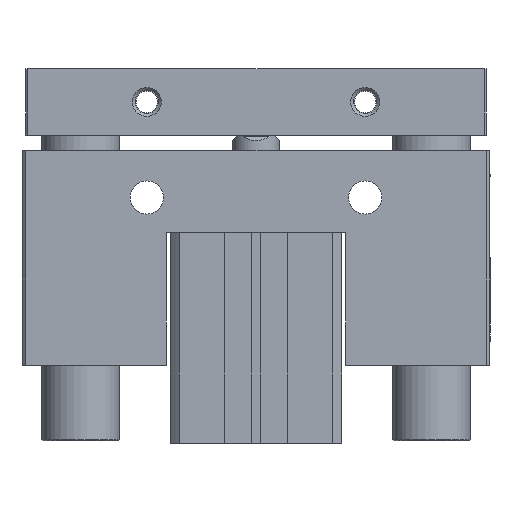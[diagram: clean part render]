
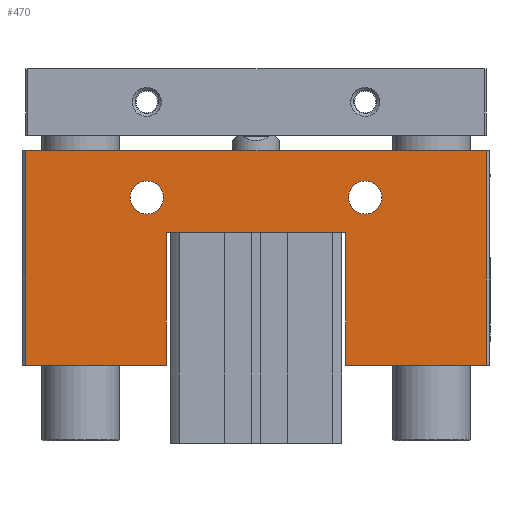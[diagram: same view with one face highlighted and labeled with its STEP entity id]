
A CAD part, front view. The second image highlights one B-rep face of the part: STEP entity #470.
In plain terms, the highlighted planar face has unit normal (0, -1, 0).
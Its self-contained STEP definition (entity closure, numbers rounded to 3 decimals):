
#199=CARTESIAN_POINT('',(-62.726,-23.62,75.));
#200=VERTEX_POINT('',#199);
#207=CARTESIAN_POINT('',(55.274,-23.62,75.));
#208=VERTEX_POINT('',#207);
#209=CARTESIAN_POINT('',(-62.726,-23.62,75.));
#210=DIRECTION('',(1.0,0.0,0.0));
#211=VECTOR('',#210,118.);
#212=LINE('',#209,#211);
#213=EDGE_CURVE('',#200,#208,#212,.T.);
#376=CARTESIAN_POINT('',(-62.726,-23.62,20.));
#377=VERTEX_POINT('',#376);
#384=CARTESIAN_POINT('',(-62.726,-23.62,20.));
#385=DIRECTION('',(0.0,0.0,1.0));
#386=VECTOR('',#385,55.0);
#387=LINE('',#384,#386);
#388=EDGE_CURVE('',#377,#200,#387,.T.);
#393=CARTESIAN_POINT('',(-3.726,-23.62,49.533));
#394=DIRECTION('',(0.0,1.0,0.0));
#395=DIRECTION('',(0.0,0.0,1.0));
#396=AXIS2_PLACEMENT_3D('',#393,#394,#395);
#397=PLANE('',#396);
#398=ORIENTED_EDGE('',*,*,#388,.F.);
#399=CARTESIAN_POINT('',(-26.726,-23.62,20.));
#400=VERTEX_POINT('',#399);
#401=CARTESIAN_POINT('',(-26.726,-23.62,20.));
#402=DIRECTION('',(-1.0,0.0,0.0));
#403=VECTOR('',#402,36.0);
#404=LINE('',#401,#403);
#405=EDGE_CURVE('',#400,#377,#404,.T.);
#406=ORIENTED_EDGE('',*,*,#405,.F.);
#407=CARTESIAN_POINT('',(-26.726,-23.62,54.0));
#408=VERTEX_POINT('',#407);
#409=CARTESIAN_POINT('',(-26.726,-23.62,54.0));
#410=DIRECTION('',(0.0,0.0,-1.0));
#411=VECTOR('',#410,34.);
#412=LINE('',#409,#411);
#413=EDGE_CURVE('',#408,#400,#412,.T.);
#414=ORIENTED_EDGE('',*,*,#413,.F.);
#415=CARTESIAN_POINT('',(19.274,-23.62,54.0));
#416=VERTEX_POINT('',#415);
#417=CARTESIAN_POINT('',(19.274,-23.62,54.0));
#418=DIRECTION('',(-1.0,0.0,0.0));
#419=VECTOR('',#418,46.);
#420=LINE('',#417,#419);
#421=EDGE_CURVE('',#416,#408,#420,.T.);
#422=ORIENTED_EDGE('',*,*,#421,.F.);
#423=CARTESIAN_POINT('',(19.274,-23.62,20.));
#424=VERTEX_POINT('',#423);
#425=CARTESIAN_POINT('',(19.274,-23.62,20.));
#426=DIRECTION('',(0.0,0.0,1.0));
#427=VECTOR('',#426,34.);
#428=LINE('',#425,#427);
#429=EDGE_CURVE('',#424,#416,#428,.T.);
#430=ORIENTED_EDGE('',*,*,#429,.F.);
#431=CARTESIAN_POINT('',(55.274,-23.62,20.));
#432=VERTEX_POINT('',#431);
#433=CARTESIAN_POINT('',(55.274,-23.62,20.));
#434=DIRECTION('',(-1.0,0.0,0.0));
#435=VECTOR('',#434,36.);
#436=LINE('',#433,#435);
#437=EDGE_CURVE('',#432,#424,#436,.T.);
#438=ORIENTED_EDGE('',*,*,#437,.F.);
#439=CARTESIAN_POINT('',(55.274,-23.62,75.));
#440=DIRECTION('',(0.0,0.0,-1.0));
#441=VECTOR('',#440,55.0);
#442=LINE('',#439,#441);
#443=EDGE_CURVE('',#208,#432,#442,.T.);
#444=ORIENTED_EDGE('',*,*,#443,.F.);
#445=ORIENTED_EDGE('',*,*,#213,.F.);
#446=EDGE_LOOP('',(#398,#406,#414,#422,#430,#438,#444,#445));
#447=FACE_OUTER_BOUND('',#446,.T.);
#448=CARTESIAN_POINT('',(-35.976,-23.62,63.));
#449=VERTEX_POINT('',#448);
#450=CARTESIAN_POINT('',(-31.726,-23.62,63.));
#451=DIRECTION('',(0.0,1.0,0.0));
#452=DIRECTION('',(1.0,0.0,0.0));
#453=AXIS2_PLACEMENT_3D('',#450,#451,#452);
#454=CIRCLE('',#453,4.25);
#455=EDGE_CURVE('',#449,#449,#454,.T.);
#456=ORIENTED_EDGE('',*,*,#455,.T.);
#457=EDGE_LOOP('',(#456));
#458=FACE_BOUND('',#457,.T.);
#459=CARTESIAN_POINT('',(20.024,-23.62,63.));
#460=VERTEX_POINT('',#459);
#461=CARTESIAN_POINT('',(24.274,-23.62,63.));
#462=DIRECTION('',(0.0,1.0,0.0));
#463=DIRECTION('',(1.0,0.0,0.0));
#464=AXIS2_PLACEMENT_3D('',#461,#462,#463);
#465=CIRCLE('',#464,4.25);
#466=EDGE_CURVE('',#460,#460,#465,.T.);
#467=ORIENTED_EDGE('',*,*,#466,.T.);
#468=EDGE_LOOP('',(#467));
#469=FACE_BOUND('',#468,.T.);
#470=ADVANCED_FACE('',(#447,#458,#469),#397,.F.);
